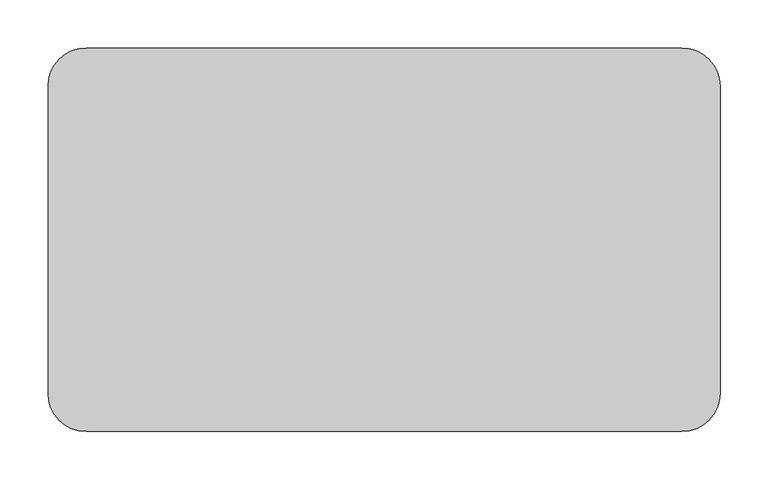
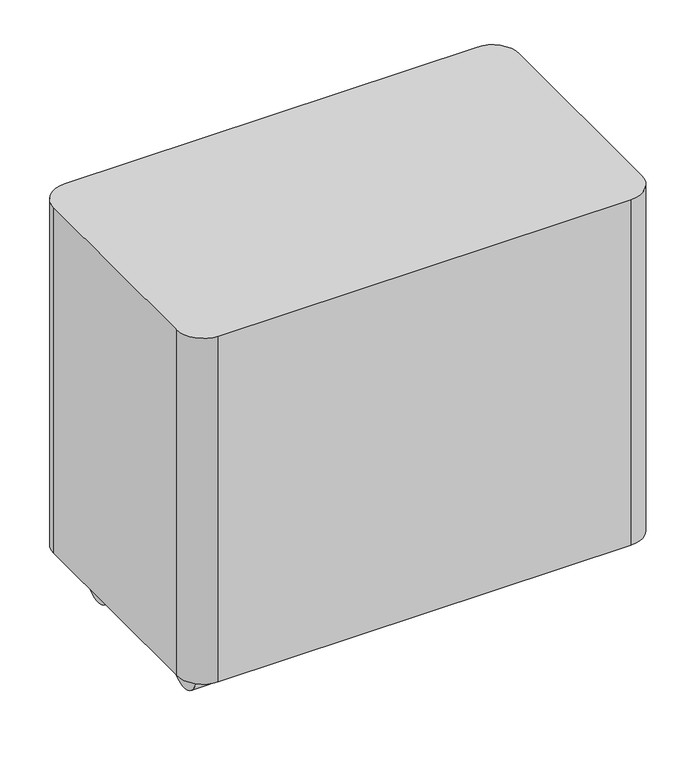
"""IFC4 building model written with IfcOpenShell, lengths in millimetres: furniture geometry, Rollcontainer : Rollcontainer."""

from ifc_helpers import new_model, si_unit, point, frame, frame_2d, origin, place, context, project, spatial, polyline, circle_curve, trimmed, segment, composite_curve, outline, extrude, source, transform, mapped, element, save


def furniture_e13cb9a2(model_context):
    return source(origin(), model_context, "Body", "SweptSolid", [
        extrude(outline(composite_curve([segment(trimmed(circle_curve(frame_2d((-112.1492538, 30.0)), 30.0), [point((-82.1492538, 30.0))], [point((-142.1492538, 30.0))], False, "CARTESIAN"), True, "CONTINUOUS"), segment(trimmed(circle_curve(frame_2d((-112.1492538, 30.0)), 30.0), [point((-142.1492538, 30.0))], [point((-82.1492538, 30.0))], False, "CARTESIAN"), True, "CONTINUOUS")], self_intersect=False)), frame((287.1068607, 0.0, 0.0), z_axis=(1.0, 0.0, 0.0), x_axis=(0.0, 1.0, 0.0)), (0.0, 0.0, 1.0), 28.6309547),
        extrude(outline(composite_curve([segment(trimmed(circle_curve(frame_2d((112.1492538, 30.0)), 30.0), [point((82.1492538, 30.0))], [point((142.1492538, 30.0))], False, "CARTESIAN"), True, "CONTINUOUS"), segment(trimmed(circle_curve(frame_2d((112.1492538, 30.0)), 30.0), [point((142.1492538, 30.0))], [point((82.1492538, 30.0))], False, "CARTESIAN"), True, "CONTINUOUS")], self_intersect=False)), frame((287.1068607, 0.0, 0.0), z_axis=(1.0, 0.0, 0.0), x_axis=(0.0, 1.0, 0.0)), (0.0, 0.0, 1.0), 28.6309547),
        extrude(outline(composite_curve([segment(trimmed(circle_curve(frame_2d((-112.1492538, 30.0)), 30.0), [point((-82.1492538, 30.0))], [point((-142.1492538, 30.0))], False, "CARTESIAN"), True, "CONTINUOUS"), segment(trimmed(circle_curve(frame_2d((-112.1492538, 30.0)), 30.0), [point((-142.1492538, 30.0))], [point((-82.1492538, 30.0))], False, "CARTESIAN"), True, "CONTINUOUS")], self_intersect=False)), frame((-310.9696008, 0.0, 0.0), z_axis=(1.0, 0.0, 0.0), x_axis=(0.0, 1.0, 0.0)), (0.0, 0.0, 1.0), 27.2468029),
        extrude(outline(composite_curve([segment(trimmed(circle_curve(frame_2d((112.1492538, 30.0)), 30.0), [point((82.1492538, 30.0))], [point((142.1492538, 30.0))], False, "CARTESIAN"), True, "CONTINUOUS"), segment(trimmed(circle_curve(frame_2d((112.1492538, 30.0)), 30.0), [point((142.1492538, 30.0))], [point((82.1492538, 30.0))], False, "CARTESIAN"), True, "CONTINUOUS")], self_intersect=False)), frame((-310.9696008, 0.0, 0.0), z_axis=(1.0, 0.0, 0.0), x_axis=(0.0, 1.0, 0.0)), (0.0, 0.0, 1.0), 27.2468029),
        extrude(outline(composite_curve([segment(polyline([(310.0, -200.0), (-310.0, -200.0)]), True, "CONTINUOUS"), segment(trimmed(circle_curve(frame_2d((-310.0, -160.0)), 40.0), [point((-310.0, -200.0))], [point((-350.0, -160.0))], False, "CARTESIAN"), True, "CONTINUOUS"), segment(polyline([(-350.0, -160.0), (-350.0, 160.0)]), True, "CONTINUOUS"), segment(trimmed(circle_curve(frame_2d((-310.0, 160.0)), 40.0), [point((-350.0, 160.0))], [point((-310.0, 200.0))], False, "CARTESIAN"), True, "CONTINUOUS"), segment(polyline([(-310.0, 200.0), (310.0, 200.0)]), True, "CONTINUOUS"), segment(trimmed(circle_curve(frame_2d((310.0, 160.0)), 40.0), [point((310.0, 200.0))], [point((350.0, 160.0))], False, "CARTESIAN"), True, "CONTINUOUS"), segment(polyline([(350.0, 160.0), (350.0, -160.0)]), True, "CONTINUOUS"), segment(trimmed(circle_curve(frame_2d((310.0, -160.0)), 40.0), [point((350.0, -160.0))], [point((310.0, -200.0))], False, "CARTESIAN"), True, "CONTINUOUS")], self_intersect=False)), frame((0.0, 0.0, 62.0), z_axis=(0.0, 0.0, 1.0), x_axis=(1.0, 0.0, 0.0)), (0.0, 0.0, 1.0), 550.0),
    ])


if __name__ == "__main__":
    model = new_model("IFC4")
    model_context = context("Model", 3, world=origin())
    ifc_project = project(units=[si_unit("LENGTHUNIT", "METRE", prefix="MILLI")], contexts=[model_context])
    site = spatial("IfcSite", under=ifc_project)
    building = spatial("IfcBuilding", under=site)
    placement = place(None, origin())
    furniture_shape = furniture_e13cb9a2(model_context)
    element("IfcFurniture", 1, ObjectType="Rollcontainer : Rollcontainer", at=placement, inside=building, context=model_context, shape_type="MappedRepresentation", body=[
        mapped(furniture_shape, transform((0.0, 0.0, 0.0), x_axis=(1.0, 0.0, 0.0), y_axis=(0.0, 1.0, 0.0), z_axis=(0.0, 0.0, 1.0))),
    ])
    save(model, "model.ifc")
